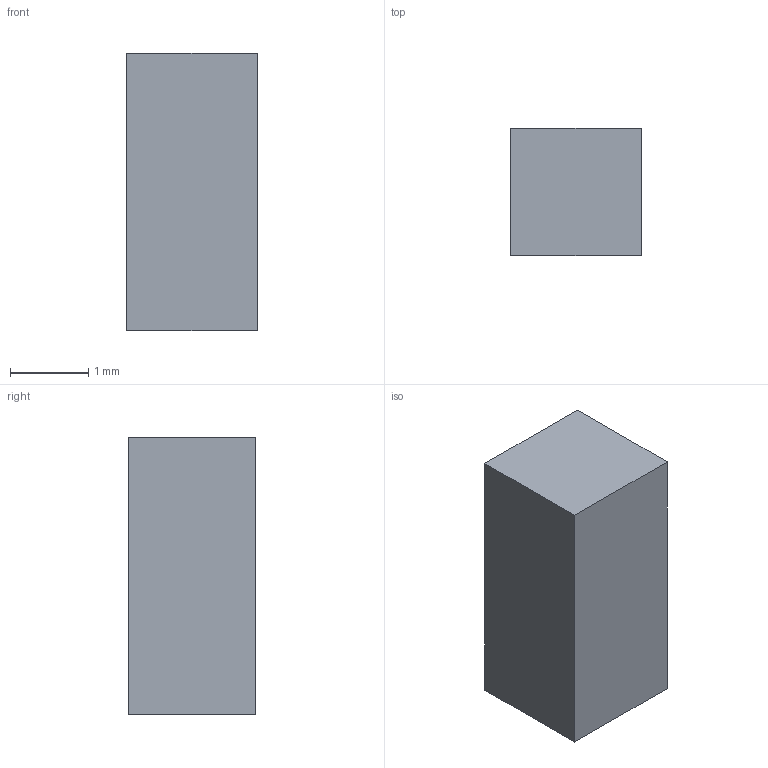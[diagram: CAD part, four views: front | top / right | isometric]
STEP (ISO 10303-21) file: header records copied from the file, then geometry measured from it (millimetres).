
FILE_DESCRIPTION(('Open CASCADE Model'),'2;1');
FILE_NAME('CUT_P01_DETACHED_LEGACY_RIB','2026-09-15T14:22:16',('Author') ,('Open CASCADE'),'Open CASCADE STEP processor 7.9','build123d', 'Unknown');
FILE_SCHEMA(('AUTOMOTIVE_DESIGN { 1 0 10303 214 1 1 1 1 }'));
Length unit declared in the file: millimetre
Products named in the file (1): CUT_P01_DETACHED_LEGACY_RIB
Bounding box: 1.67 x 1.62 x 3.54 mm (x, y, z)
Volume: 9.6 mm3; surface area: 28.7 mm2
Topology: 1 solids, 1 shells, 6 faces, 12 edges, 8 vertices
Faces by surface type: plane 6
Entity records: 322 total; most frequent: CARTESIAN_POINT 51, DIRECTION 50, LINE 36, VECTOR 36, ORIENTED_EDGE 24, PCURVE 24, DEFINITIONAL_REPRESENTATION 24, EDGE_CURVE 12
